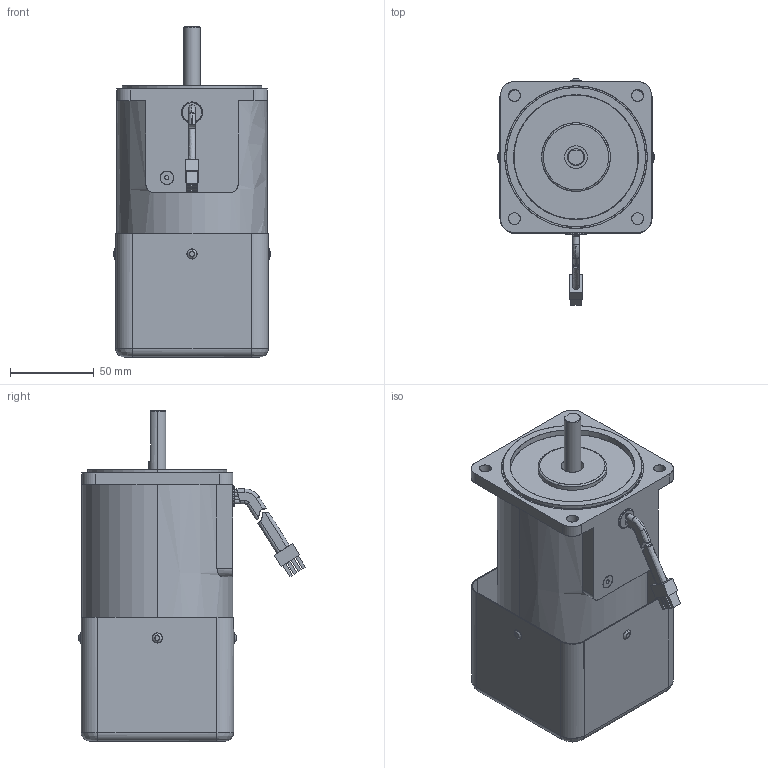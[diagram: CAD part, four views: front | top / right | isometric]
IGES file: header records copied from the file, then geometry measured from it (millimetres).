
Start section: SolidWorks IGES file using analytic representation for surfaces
Global section: file name: \\楷备家烹钦辑滚\data (D)\档搁 枚\权其捞瘤 档搁\7. SPEED INDUCTION\90\60W\(7-56) 9SDD∴-60F2.IGS; native system: SolidWorks 2007; preprocessor: SolidWorks 2007; author: user; date: 150706.164705; units: millimetre
Bounding box: 94 x 135.4 x 197 mm (x, y, z)
Surface area: 168303 mm2 (no closed solid volume)
Topology: 0 solids, 0 shells, 395 faces, 7012 edges, 7012 vertices
Faces by surface type: revolution 237, bspline 158
